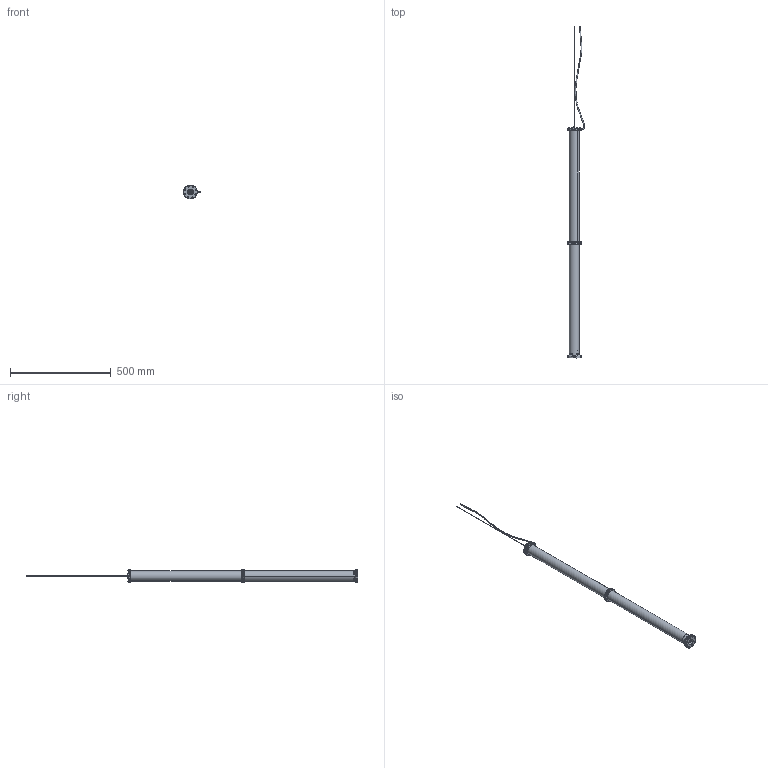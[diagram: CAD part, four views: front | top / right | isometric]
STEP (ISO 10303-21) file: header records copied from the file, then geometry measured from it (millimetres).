
FILE_DESCRIPTION (( 'STEP AP203' ), '1' );
FILE_NAME ('FBN05.LS07.AF01.R00 Render.STEP', '2025-05-05T14:51:08', ( '' ), ( '' ), 'SwSTEP 2.0', 'SolidWorks 2024', '' );
FILE_SCHEMA (( 'CONFIG_CONTROL_DESIGN' ));
Length unit declared in the file: millimetre
Products named in the file (18): Lente LED PMMA Ø20 3 posizioni EA LM020.0XX.00; FBN05.LS03.C010.R10; socket set screw flat point_1_iso_ISO 4026 - M2.5 x 6-C; FBN05.LS03.C002.R10; FBN05.LS07.C007.R00; FBN05.LS03.C009.R10; FBN05.LS03.C014.R10; FBN05.LS07.C002.R00; FBN05.LS07.C099.R00; FBN05.LS07.C003.R00; FBN05.LS03.C007.R10; FBN05.LS07.C004.R00; FBN05.LS03.C012.R10; FBN05.LS07.AF01.R00 Render; FBN05.LS03.C001.R10; FBN05.LS03.C015.R10; FBN05.LS03.C098.R00; FBN05.LS03.C006.R10
Assembly tree (74 placements, depth 2):
  FBN05.LS07.AF01.R00 Render
    socket set screw flat point_1_iso_ISO 4026 - M2.5 x 6-C  x8
    Lente LED PMMA Ø20 3 posizioni EA LM020.0XX.00
    FBN05.LS07.C007.R00
    FBN05.LS03.C015.R10
    FBN05.LS07.C003.R00
    FBN05.LS03.C009.R10  x2
    FBN05.LS03.C010.R10
    FBN05.LS03.C002.R10
    FBN05.LS03.C014.R10  x48
    FBN05.LS03.C007.R10  x2
    FBN05.LS07.C002.R00
    FBN05.LS03.C006.R10  x2
    FBN05.LS03.C012.R10
    FBN05.LS03.C098.R00
    FBN05.LS07.C099.R00
    FBN05.LS03.C001.R10
    FBN05.LS07.C004.R00
Bounding box: 84.06 x 1646.7 x 67.97 mm (x, y, z)
Volume: 659163.7 mm3; surface area: 537629.2 mm2
Topology: 74 solids, 74 shells, 1741 faces, 4036 edges, 2508 vertices
Faces by surface type: cylinder 761, plane 486, cone 276, sphere 194, bspline 12, torus 12
Entity records: 26658 total; most frequent: CARTESIAN_POINT 7544, DIRECTION 3620, ORIENTED_EDGE 3020, EDGE_CURVE 1510, AXIS2_PLACEMENT_3D 1502, VERTEX_POINT 980, EDGE_LOOP 828, CIRCLE 815
